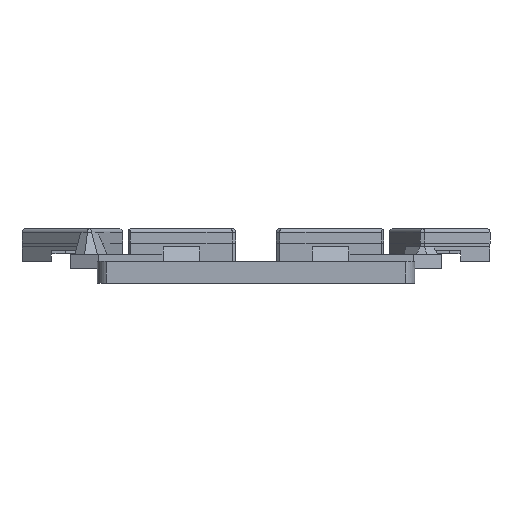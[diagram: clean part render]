
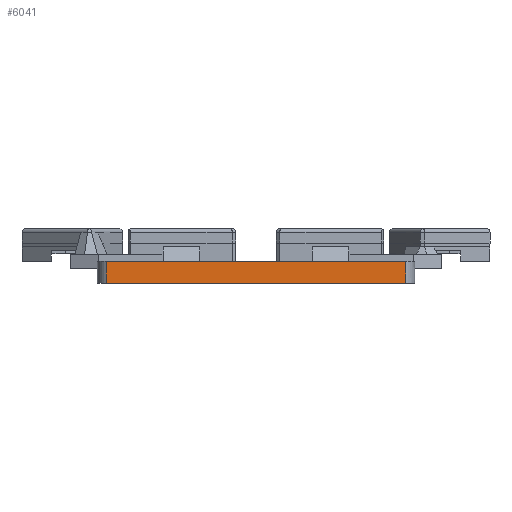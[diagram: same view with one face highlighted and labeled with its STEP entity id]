
A CAD part, front view. The second image highlights one B-rep face of the part: STEP entity #6041.
In plain terms, the highlighted planar face has unit normal (0, -1, 0).
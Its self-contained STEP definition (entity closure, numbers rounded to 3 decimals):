
#4 = DIRECTION ( 'NONE',  ( -1., 0., 0. ) ) ;
#11 = CARTESIAN_POINT ( 'NONE',  ( -20.458, -52.474, 3. ) ) ;
#198 = FACE_OUTER_BOUND ( 'NONE', #3955, .T. ) ;
#597 = VERTEX_POINT ( 'NONE', #5816 ) ;
#636 = DIRECTION ( 'NONE',  ( 0., 0., 1. ) ) ;
#672 = ORIENTED_EDGE ( 'NONE', *, *, #5546, .F. ) ;
#743 = CARTESIAN_POINT ( 'NONE',  ( 0., -52.474, 3. ) ) ;
#1368 = CARTESIAN_POINT ( 'NONE',  ( 20.458, -52.474, 0. ) ) ;
#1703 = LINE ( 'NONE', #2842, #2124 ) ;
#1753 = ORIENTED_EDGE ( 'NONE', *, *, #7071, .T. ) ;
#2094 = EDGE_CURVE ( 'NONE', #3379, #5133, #3452, .T. ) ;
#2106 = CARTESIAN_POINT ( 'NONE',  ( -20.458, -52.474, 3. ) ) ;
#2124 = VECTOR ( 'NONE', #3238, 1000. ) ;
#2612 = DIRECTION ( 'NONE',  ( 1., 0., 0. ) ) ;
#2818 = VERTEX_POINT ( 'NONE', #2106 ) ;
#2842 = CARTESIAN_POINT ( 'NONE',  ( 20.458, -52.474, 3. ) ) ;
#2847 = VECTOR ( 'NONE', #4, 1000. ) ;
#3237 = LINE ( 'NONE', #6573, #3978 ) ;
#3238 = DIRECTION ( 'NONE',  ( 0., 0., -1. ) ) ;
#3379 = VERTEX_POINT ( 'NONE', #1368 ) ;
#3452 = LINE ( 'NONE', #3989, #2847 ) ;
#3953 = DIRECTION ( 'NONE',  ( 0., 0., -1. ) ) ;
#3955 = EDGE_LOOP ( 'NONE', ( #1753, #6029, #672, #6208 ) ) ;
#3978 = VECTOR ( 'NONE', #2612, 1000. ) ;
#3989 = CARTESIAN_POINT ( 'NONE',  ( 0., -52.474, 0. ) ) ;
#4066 = PLANE ( 'NONE',  #6496 ) ;
#4240 = EDGE_CURVE ( 'NONE', #2818, #597, #3237, .T. ) ;
#4932 = LINE ( 'NONE', #11, #5822 ) ;
#5133 = VERTEX_POINT ( 'NONE', #5413 ) ;
#5413 = CARTESIAN_POINT ( 'NONE',  ( -20.458, -52.474, 0. ) ) ;
#5546 = EDGE_CURVE ( 'NONE', #597, #3379, #1703, .T. ) ;
#5816 = CARTESIAN_POINT ( 'NONE',  ( 20.458, -52.474, 3. ) ) ;
#5822 = VECTOR ( 'NONE', #3953, 1000. ) ;
#6029 = ORIENTED_EDGE ( 'NONE', *, *, #2094, .F. ) ;
#6041 = ADVANCED_FACE ( 'NONE', ( #198 ), #4066, .F. ) ;
#6208 = ORIENTED_EDGE ( 'NONE', *, *, #4240, .F. ) ;
#6496 = AXIS2_PLACEMENT_3D ( 'NONE', #743, #6746, #636 ) ;
#6573 = CARTESIAN_POINT ( 'NONE',  ( 0., -52.474, 3. ) ) ;
#6746 = DIRECTION ( 'NONE',  ( 0., 1., 0. ) ) ;
#7071 = EDGE_CURVE ( 'NONE', #2818, #5133, #4932, .T. ) ;
